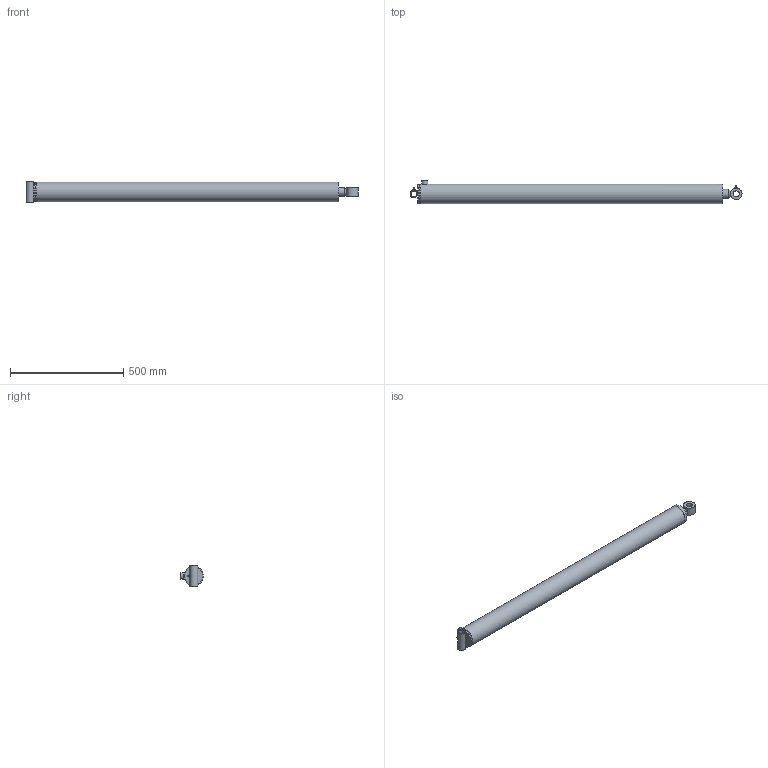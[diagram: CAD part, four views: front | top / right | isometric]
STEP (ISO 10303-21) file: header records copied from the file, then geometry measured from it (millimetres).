
FILE_DESCRIPTION((''),'2;1');
FILE_NAME('C:\Vault\Workspace\Vest\PMC-8348.stp','2010-09-27T11:41:39',('kneifld'),(''),'Autodesk Inventor 2010','Autodesk Inventor 2010','');
FILE_SCHEMA(('AUTOMOTIVE_DESIGN { 1 0 10303 214 1 1 1 1 }'));
Length unit declared in the file: inch
Products named in the file (22): PMC-8348; 061500057; 051500075; 161500007V; 210400412V; 200014403V; 081500401V; 020800294; 010800825; 210400528V; 071500021V; 220000210V; 250001222V; 240020059V; 240061334V; 240000334V; 230001300V; 240000022V; 240004006V; 240034334V; 200018003V; 270010002V
Assembly tree (25 placements, depth 3):
  PMC-8348
    061500057
      051500075
      161500007V
      210400412V
      200014403V
    081500401V
    020800294
      010800825
      210400528V
    071500021V
    220000210V
    250001222V
    240020059V
    240061334V
    240000334V  x2
    230001300V
    240000022V
    240004006V
    240034334V  x2
    200018003V  x2
    270010002V  x2
Bounding box: 1465.28 x 101.6 x 88.9 mm (x, y, z)
Volume: 3603480.7 mm3; surface area: 989092.4 mm2
Topology: 23 solids, 23 shells, 243 faces, 497 edges, 302 vertices
Faces by surface type: plane 115, cylinder 62, cone 36, torus 18, bspline 10, sphere 2
Full cylindrical faces by diameter (mm): 1.524 x2, 2.794 x2, 5.486 x1, 8.839 x1, 9.08 x2, 12.7 x1, 23.813 x1, 25.349 x1, 25.476 x1, 25.908 x1, 26.162 x1, 27.94 x1, 28.575 x1, 34.925 x1, 38.1 x2, 38.176 x2, 39.052 x1, 41.91 x1, 46.025 x2, 46.673 x1, 47.625 x1, 49.2 x1, 50.8 x1, 55.55 x1, 59.69 x1, 66.802 x1, 67.31 x3, 67.564 x1, 68.072 x1, 71.425 x1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
Entity records: 6152 total; most frequent: CARTESIAN_POINT 1633, DIRECTION 905, ORIENTED_EDGE 588, AXIS2_PLACEMENT_3D 412, EDGE_LOOP 351, EDGE_CURVE 294, VERTEX_POINT 235, FACE_OUTER_BOUND 203
